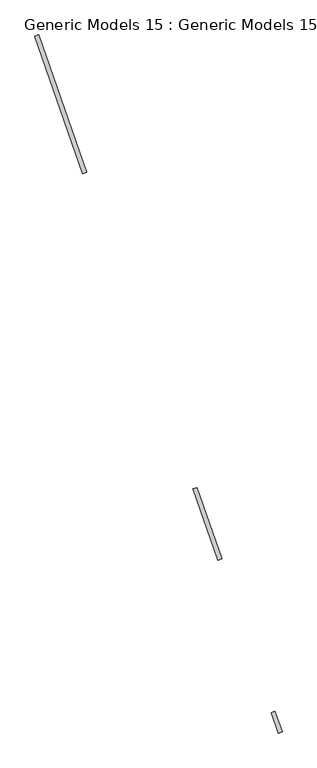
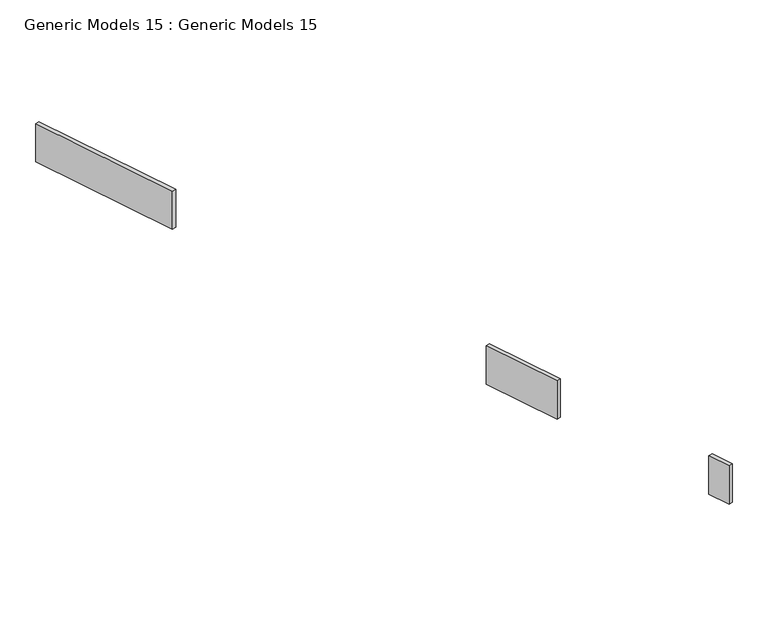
"""IFC4 building model written with IfcOpenShell, lengths in millimetres: proxy geometry, Generic Models 15 : Generic Models 15."""

from ifc_helpers import new_model, si_unit, frame, origin, place, context, project, spatial, polyline, outline, extrude, source, transform, mapped, element, save


def generic_models_15_generic_models_15_6c7800a2(model_context):
    return source(origin(), model_context, "Body", "SweptSolid", [
        extrude(outline(polyline([(497754.6948397, 33973.2805995), (498646.7345448, 31424.8957847), (498577.4127377, 31400.6302954), (497685.3730326, 33949.0151103), (497754.6948397, 33973.2805995)])), frame((0.0, 0.0, 1300.0), z_axis=(0.0, 0.0, 1.0), x_axis=(1.0, 0.0, 0.0)), (0.0, 0.0, 1.0), 700.0),
        extrude(outline(polyline([(500695.1220159, 25573.0491729), (501157.6611223, 24251.6644541), (501088.3393152, 24227.3989648), (500625.8002088, 25548.7836836), (500695.1220159, 25573.0491729)])), frame((0.0, 0.0, 1300.0), z_axis=(0.0, 0.0, 1.0), x_axis=(1.0, 0.0, 0.0)), (0.0, 0.0, 1.0), 700.0),
        extrude(outline(polyline([(502148.8163502, 21420.1257709), (502280.9703806, 21042.5872799), (502211.6485735, 21018.3217906), (502079.4945432, 21395.8602817), (502148.8163502, 21420.1257709)])), frame((0.0, 0.0, 1300.0), z_axis=(0.0, 0.0, 1.0), x_axis=(1.0, 0.0, 0.0)), (0.0, 0.0, 1.0), 700.0),
    ])


if __name__ == "__main__":
    model = new_model("IFC4")
    model_context = context("Model", 3, world=origin())
    ifc_project = project(units=[si_unit("LENGTHUNIT", "METRE", prefix="MILLI")], contexts=[model_context])
    site = spatial("IfcSite", under=ifc_project)
    building = spatial("IfcBuilding", under=site)
    placement = place(None, origin())
    generic_models_15_generic_models_15_shape = generic_models_15_generic_models_15_6c7800a2(model_context)
    element("IfcBuildingElementProxy", 1, Name="Generic Models 15 : Generic Models 15", ObjectType="Generic Models 15 : Generic Models 15", at=placement, inside=building, context=model_context, shape_type="MappedRepresentation", body=[
        mapped(generic_models_15_generic_models_15_shape, transform((0.0, 0.0, 0.0), x_axis=(1.0, 0.0, 0.0), y_axis=(0.0, 1.0, 0.0), z_axis=(0.0, 0.0, 1.0))),
    ])
    save(model, "model.ifc")
